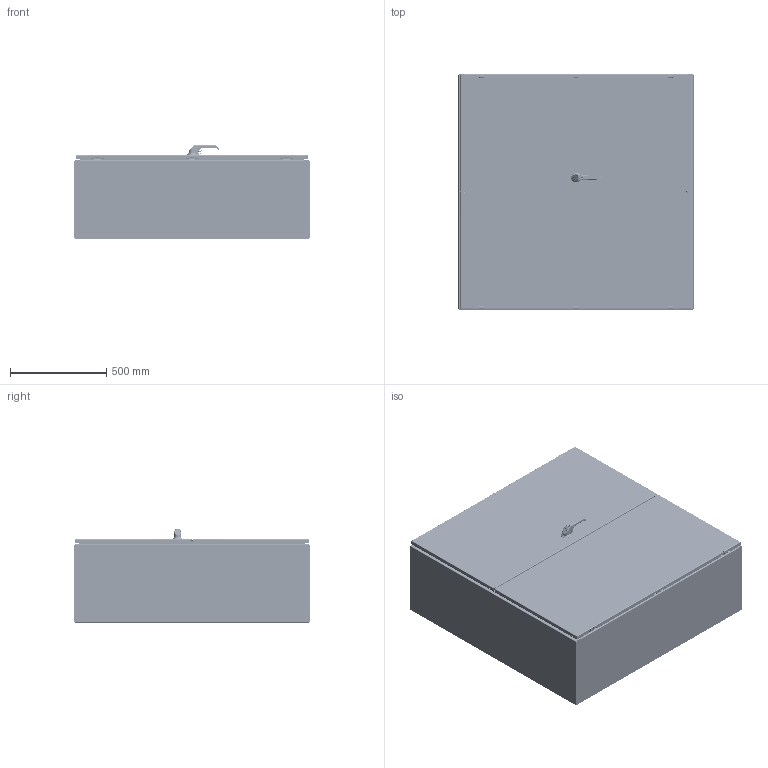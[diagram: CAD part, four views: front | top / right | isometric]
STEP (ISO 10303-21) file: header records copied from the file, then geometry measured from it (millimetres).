
FILE_DESCRIPTION((''),'2;1');
FILE_NAME('MODEL-321_ASM','2026-08-18T15:01:48',('richards'),('SAGINAW CONTROL & ENGINEERING'),'CREO PARAMETRIC BY PTC INC, 2021284','CREO PARAMETRIC BY PTC INC, 2021284','');
FILE_SCHEMA(('AUTOMOTIVE_DESIGN { 1 0 10303 214 1 1 1 1 }'));
Length unit declared in the file: inch
Products named in the file (62): MODEL-321-BDY; MODEL-321-RS; MODEL-321-LS; MODEL-321-MSTR; 100837; 100882; 111267; MODEL-321-ROD-UPR; 128146; 128145; 128144; 102482; MODEL-321-ROD-UPR_ASM; 128143; 112504; MODEL-321-ROD-LWR; MODEL-321-ROD-LWR_ASM; 100955_SCREW_MTG; 100955_PADLOCK_CATCH; 100955_SCREW_LARGE; 100955_INSERT_SHAFT; 100955_INSERT_PKH; 100955_GASKET; 100955_O-RING; 100955_BASE; 100955_SPRING; 100955_HANDLE; 100955_CAM_SHAFT; 100955_HANDLE_ASM; 100955_CAM_ADAPTER; 100955_EARTH_NUT; 100955_FLANGE_NUT; 100955_CAM_NUT; 100955_KEY_INSERT; 100955_SPRING_CAM; 100955_TORSION_SPRING; 100955_SCREW_INSERT; 100955_ASM; 102236; 100030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
Assembly tree (142 placements, depth 5):
  MODEL-321_ASM
    MODEL-321-BDY
    MODEL-321-RS
    MODEL-321-LS
    MODEL-321-MASTER-DR-ASSY_ASM
      MODEL-321-MSTR
      100837  x5
      100882  x4
      111267
      MODEL-321-ROD-UPR_ASM
        MODEL-321-ROD-UPR
        128146
        128145
        128144
        102482  x2
      128143  x2
      112504  x2
      MODEL-321-ROD-LWR_ASM
        MODEL-321-ROD-LWR
        128146
        128145
        128144
        102482  x2
      100955_ASM
        100955_SCREW_MTG
        100955_PADLOCK_CATCH
        100955_SCREW_LARGE  x2
        100955_INSERT_SHAFT
        100955_INSERT_PKH
        100955_GASKET
        100955_O-RING
        100955_BASE
        100955_SPRING
        100955_HANDLE_ASM
          100955_HANDLE
          100955_CAM_SHAFT
        100955_CAM_ADAPTER
        100955_EARTH_NUT
        100955_FLANGE_NUT
        100955_CAM_NUT
        100955_KEY_INSERT
        100955_SPRING_CAM
        100955_TORSION_SPRING
        100955_SCREW_INSERT
      102236_ASM
        102236
        100030  x2
      MODEL-321-PR-GSKT-M
      126391_ASM  x3
        126391
      126393  x3
      101226  x3
      101376  x3
      102483  x9
      102140  x3
      132757  x3
      125597
    MODEL-321-SLAVE-DR-ASSY_ASM
      MODEL-321-SLV
      100837
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Bounding box: 1219.2 x 1219.2 x 484.9 mm (x, y, z)
Volume: 15742566.2 mm3; surface area: 14319493.1 mm2
Topology: 143 solids, 143 shells, 10742 faces, 27074 edges, 16645 vertices
Faces by surface type: plane 3943, cylinder 2931, bspline 1780, torus 975, cone 753, sphere 330, extrusion 30
Entity records: 352615 total; most frequent: CARTESIAN_POINT 144566, ORIENTED_EDGE 32530, DIRECTION 29296, PRESENTATION_STYLE_ASSIGNMENT 16330, STYLED_ITEM 16323, CURVE_STYLE 16265, EDGE_CURVE 16265, AXIS2_PLACEMENT_3D 10835
